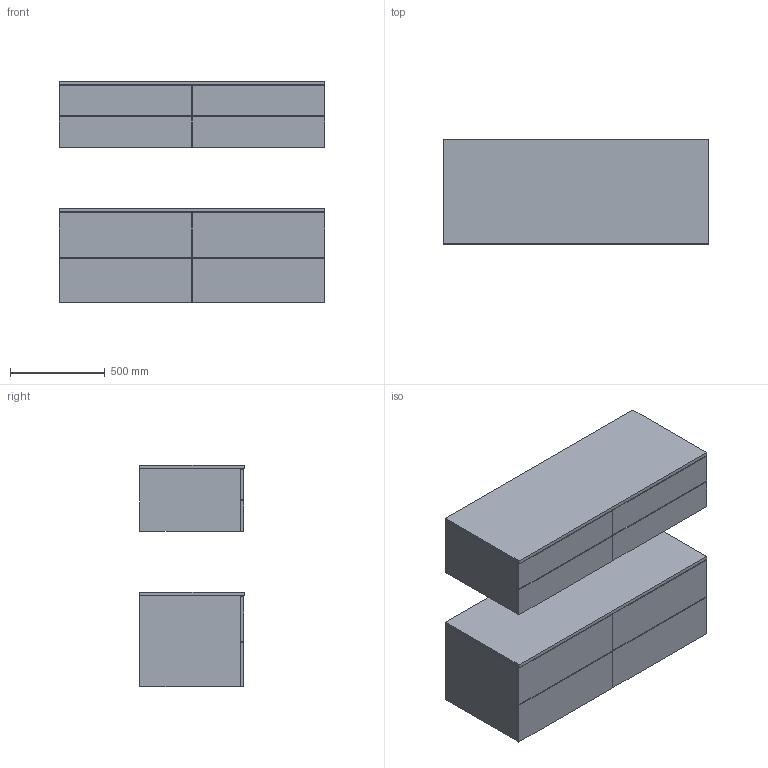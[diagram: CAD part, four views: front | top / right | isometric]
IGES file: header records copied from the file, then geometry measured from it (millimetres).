
Global section: file name: \\Archi-NAS\Comune\X GIOVANNI\MOBILI\BOXLINE\BOXLINE_8.igs; native system: Rhinoceros ( Feb 23 2021 ); preprocessor: Trout Lake IGES 012 Feb 23 2021; date: 230607.152934; units: millimetre
Bounding box: 1400 x 550 x 1171.3 mm (x, y, z)
Surface area: 21506960 mm2 (no closed solid volume)
Topology: 0 solids, 0 shells, 348 faces, 1416 edges, 1416 vertices
Faces by surface type: bspline 348
